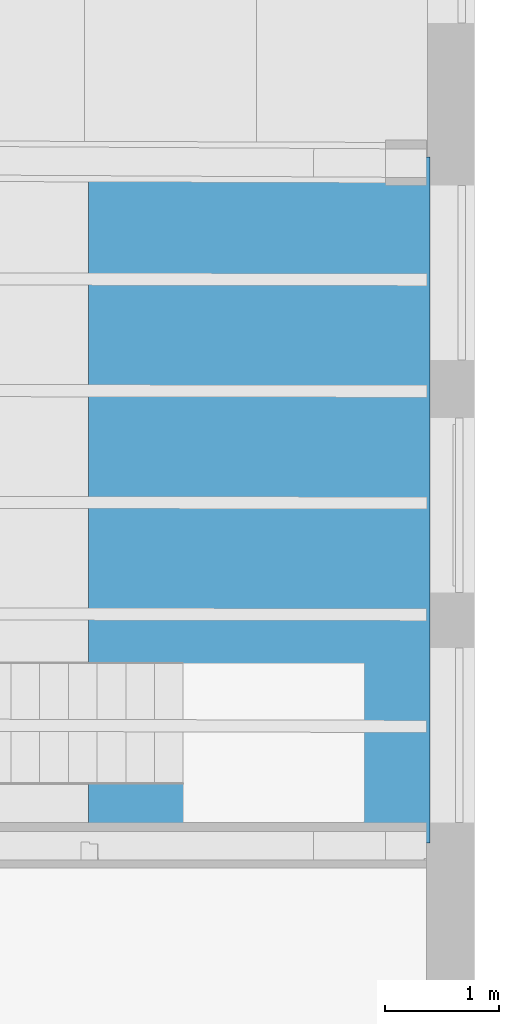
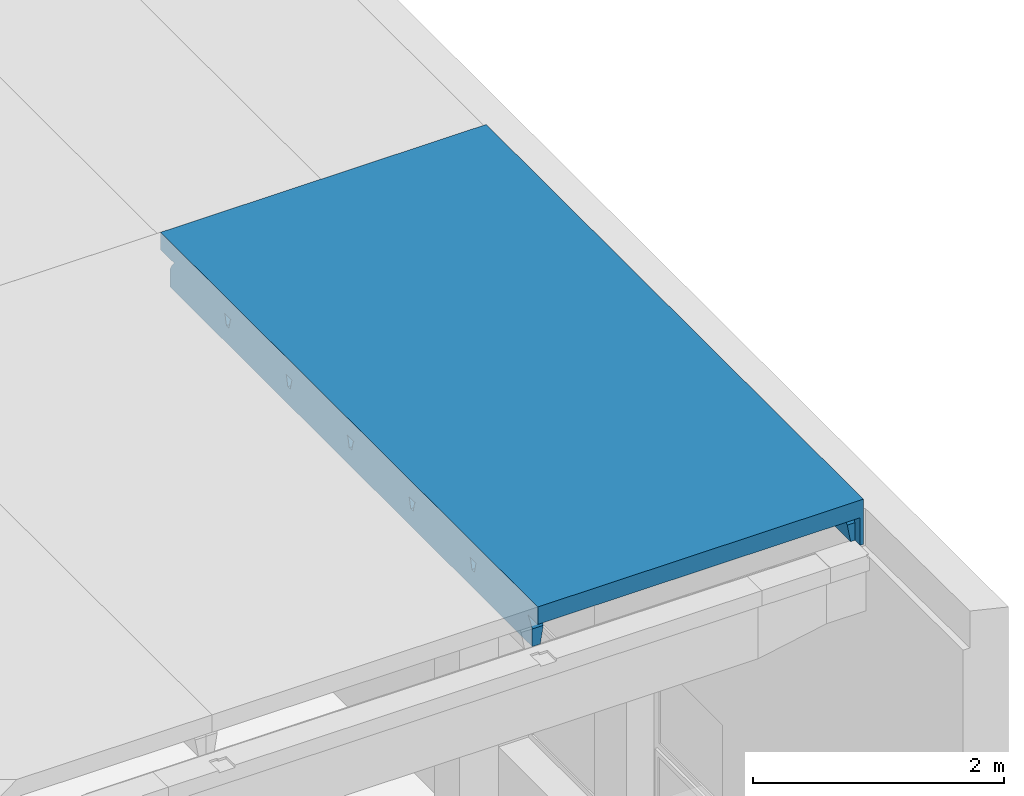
# One storey, part 39 of 301: 1 beam.
"""IFC2X3 building model written with IfcOpenShell, lengths in millimetres."""

from ifc_helpers import new_model, entity, si_unit, converted_unit, derived_unit, money_unit, direction, frame, origin_with_axes, place, context, subcontext, project, spatial, faceted_brep, material, type_object, element, save


model = new_model("IFC2X3")

# Units and contexts
model_context = context("Model", 3, precision=0.01, world=origin_with_axes(), true_north=direction((0.0, 1.0)))
body_context = subcontext(model_context, "Body", "Model", "MODEL_VIEW")
ifc_project = project(units=[si_unit("LENGTHUNIT", "METRE", prefix="MILLI"), si_unit("AREAUNIT", "SQUARE_METRE"), si_unit("VOLUMEUNIT", "CUBIC_METRE"), converted_unit("PLANEANGLEUNIT", "DEGREE", entity("IfcPlaneAngleMeasure", 0.0174532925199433), si_unit("PLANEANGLEUNIT", "RADIAN"), dimensions=[0, 0, 0, 0, 0, 0, 0]), money_unit("EUR"), converted_unit("TIMEUNIT", "Year", entity("IfcTimeMeasure", 31557600.0), si_unit("TIMEUNIT", "SECOND"), dimensions=[0, 0, 1, 0, 0, 0, 0]), si_unit("MASSUNIT", "GRAM", prefix="KILO"), si_unit("THERMODYNAMICTEMPERATUREUNIT", "DEGREE_CELSIUS"), si_unit("LUMINOUSINTENSITYUNIT", "LUMEN"), si_unit("ENERGYUNIT", "JOULE", prefix="MEGA"), derived_unit("THERMALCONDUCTANCEUNIT", [(si_unit("POWERUNIT", "WATT"), 1), (si_unit("LENGTHUNIT", "METRE"), -1), (si_unit("THERMODYNAMICTEMPERATUREUNIT", "KELVIN"), -1)]), derived_unit("SPECIFICHEATCAPACITYUNIT", [(si_unit("ENERGYUNIT", "JOULE"), 1), (si_unit("MASSUNIT", "GRAM", prefix="KILO"), -1), (si_unit("THERMODYNAMICTEMPERATUREUNIT", "KELVIN"), -1)]), derived_unit("MASSDENSITYUNIT", [(si_unit("MASSUNIT", "GRAM", prefix="KILO"), 1), (si_unit("VOLUMEUNIT", "CUBIC_METRE"), -1)])], contexts=[model_context])

# Site, building, storey
site_placement = place(None, frame((0.0, 0.0, 8650.0), z_axis=(0.0, 0.0, 1.0), x_axis=(1.0, 0.0, 0.0)))
site = spatial("IfcSite", under=ifc_project, at=site_placement, Name="43301:001:0844", CompositionType="ELEMENT")
building_placement = place(site_placement, origin_with_axes())
building = spatial("IfcBuilding", under=site, at=building_placement, Name="Kuressaare Ametikooli tuulikute mehaanikute õppekorpus", CompositionType="ELEMENT")
storey_placement = place(building_placement, origin_with_axes())
storey = spatial("IfcBuildingStorey", under=building, at=storey_placement, Name="1.korrus", CompositionType="ELEMENT", Elevation=0.0)

# Beam
ifc_material = material(Name="GENEERILINE - KONSTRUKTRIOON")
beam_type = type_object("IfcBeamType", Name="Precast Double Tee 4 3000 x 440", PredefinedType="NOTDEFINED")
beam_placement = place(storey_placement, frame((101758.7564468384, 44085.15228588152, 7100.0), z_axis=(0.0, 0.0, 1.0), x_axis=(-1.0, 0.0, 0.0)))
element("IfcBeam", 1, at=beam_placement, inside=storey, type_object=beam_type, material=ifc_material, context=body_context, shape_type="Brep", body=[
    faceted_brep([(1500.0, 206.3151401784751, -180.532857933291), (1500.0, 174.6424814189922, -221.5483087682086), (1500.0, 149.0503447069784, -266.6089685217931), (1500.0, 149.0498196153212, -440.0001340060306), (1500.0, 5929.168982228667, -440.0001340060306), (1500.0, 5929.168459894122, -267.5188171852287), (1500.0, 5903.576409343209, -222.4581574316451), (1500.0, 5871.903857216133, -181.4427065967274), (1500.0, 5860.94128330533, -169.9098486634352), (1500.0, 6017.898995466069, -169.9098486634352), (1500.0, 6017.898995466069, 0.0), (1500.0, 0.0, 0.0), (1500.0, 0.0, -168.9999999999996), (1500.0, 217.2777509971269, -168.9999999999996), (1500.0, 1124.227090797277, -169.8331663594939), (1500.0, 1116.028233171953, -175.4075010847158), (1500.0, 1111.453613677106, -184.2033640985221), (1500.0, 1090.71362810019, -271.7806445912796), (1500.0, 1050.713574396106, -271.7806445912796), (1500.0, 1029.972627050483, -184.2031688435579), (1500.0, 1025.39798714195, -175.4074260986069), (1500.0, 1017.199196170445, -169.8331663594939), (1500.0, 2095.445482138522, -175.4075010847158), (1500.0, 2090.870862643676, -184.2033640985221), (1500.0, 2070.130877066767, -271.7806445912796), (1500.0, 2030.130823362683, -271.7806445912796), (1500.0, 2009.389876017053, -184.2031688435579), (1500.0, 2004.815236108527, -175.4074260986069), (1500.0, 1996.616445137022, -169.8331663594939), (1500.0, 2103.644339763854, -169.8331663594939), (1500.0, 3071.659065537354, -184.2033640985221), (1500.0, 3050.919079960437, -271.7806445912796), (1500.0, 3010.919026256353, -271.7806445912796), (1500.0, 2990.178078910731, -184.2031688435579), (1500.0, 2985.603439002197, -175.4074260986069), (1500.0, 2977.404648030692, -169.8331663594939), (1500.0, 3084.432542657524, -169.8331663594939), (1500.0, 3076.2336850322, -175.4075010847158), (1500.0, 4030.671258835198, -271.7806445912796), (1500.0, 3990.671205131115, -271.7806445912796), (1500.0, 3969.930257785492, -184.2031688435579), (1500.0, 3965.355617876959, -175.4074260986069), (1500.0, 3957.156826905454, -169.8331663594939), (1500.0, 4064.184721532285, -169.8331663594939), (1500.0, 4055.985863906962, -175.4075010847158), (1500.0, 4051.411244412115, -184.2033640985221), (1500.0, 4968.472259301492, -271.7806445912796), (1500.0, 4947.731265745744, -184.2031688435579), (1500.0, 4943.156615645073, -175.4074260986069), (1500.0, 4934.957806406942, -169.8331663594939), (1500.0, 5041.985939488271, -169.8331663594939), (1500.0, 5033.787063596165, -175.4075010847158), (1500.0, 5029.21243390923, -184.2033640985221), (1500.0, 5008.472402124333, -271.7806445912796), (1365.910046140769, 206.7696863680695, -180.532857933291), (1371.752641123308, 204.0165735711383, -184.0724353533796), (1384.30381979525, 191.5623218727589, -200.1453415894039), (1390.327470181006, 176.4969041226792, -219.628309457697), (1390.629556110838, 175.013231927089, -221.5483087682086), (1397.719241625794, 149.3970621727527, -266.6089685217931), (1424.999996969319, 149.304059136, -440.0001340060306), (1424.999996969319, 5929.332573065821, -440.0001340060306), (1397.862394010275, 5929.391243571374, -267.5188171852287), (1390.772708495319, 5903.814657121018, -222.4581574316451), (1384.303819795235, 5886.598581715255, -200.1453415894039), (1371.752641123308, 5874.214295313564, -184.0724353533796), (1367.411885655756, 5872.193059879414, -181.4427065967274), (1390.327470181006, 5901.630390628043, -219.628309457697), (1354.310838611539, 5864.67719213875, -173.505793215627), (1334.723493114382, 5861.301786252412, -169.9098486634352), (1334.723493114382, 6017.898995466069, -169.9098486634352), (-1468.815361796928, 6017.898995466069, -440.0001340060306), (-1500.0, 6017.898995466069, -440.0001340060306), (-1500.0, 6017.898995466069, 0.0), (1334.253143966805, 6017.898995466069, -169.8234995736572), (1127.640522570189, 6017.898995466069, -169.9098486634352), (-1468.815361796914, 6017.898995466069, -169.9098486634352), (-1500.0, 0.0, 0.0), (-1500.0, 0.0, -440.0001340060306), (-1468.946474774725, 0.0, -440.0001340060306), (-1468.946474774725, 0.0, -168.9999999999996), (-1468.175825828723, 227.3394519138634, -168.9999999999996), (-1354.45241394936, 223.6866477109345, -172.4372542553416), (-1336.819669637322, 225.0502735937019, -170.9398142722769), (1334.253143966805, 217.0568283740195, -169.8234995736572), (1354.310838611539, 213.4886145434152, -173.505793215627), (-1468.212987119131, 216.3769670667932, -180.532857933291), (-1370.461247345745, 216.0456023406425, -180.532857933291), (-1370.286968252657, 216.2301681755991, -180.338069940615), (1334.253120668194, 1124.498693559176, -169.8331663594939), (1354.310838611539, 1119.064043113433, -173.505793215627), (1357.449888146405, 1116.261824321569, -175.4075010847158), (1371.752641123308, 1111.731861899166, -184.0724353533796), (1371.854882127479, 1111.663599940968, -184.2033640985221), (1384.30381979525, 1107.867833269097, -200.1453415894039), (1390.327470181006, 1103.244020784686, -219.628309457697), (1398.532934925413, 1090.879898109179, -271.7806445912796), (1398.532934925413, 1050.879844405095, -271.7806445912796), (1371.854729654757, 1030.1826135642, -184.2031688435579), (1390.327470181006, 1038.542068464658, -219.628309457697), (1384.30381979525, 1033.937793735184, -200.1453415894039), (1371.752641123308, 1030.114786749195, -184.0724353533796), (1357.44976437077, 1025.631578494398, -175.4074260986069), (1354.310838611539, 1022.839742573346, -173.505793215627), (1334.253143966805, 1017.470798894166, -169.8331663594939), (-1473.661028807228, 1022.072015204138, -169.8331663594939), (-1473.485646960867, 1129.099622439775, -169.8331663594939), (1371.752641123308, 2091.149110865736, -184.0724353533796), (1371.854882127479, 2091.080848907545, -184.2033640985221), (1357.449888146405, 2095.679073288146, -175.4075010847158), (1390.327470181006, 2082.661269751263, -219.628309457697), (1398.532934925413, 2070.297147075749, -271.7806445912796), (1384.30381979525, 2087.285082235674, -200.1453415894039), (1398.532934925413, 2030.297093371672, -271.7806445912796), (1390.327470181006, 2017.959317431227, -219.628309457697), (1384.30381979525, 2013.355042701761, -200.1453415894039), (1371.854729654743, 2009.59986253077, -184.2031688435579), (1357.44976437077, 2005.048827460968, -175.4074260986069), (1371.752641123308, 2009.532035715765, -184.0724353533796), (1334.253124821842, 1996.888047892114, -169.8331663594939), (1354.310838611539, 2002.256991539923, -173.505793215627), (-1472.056101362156, 2001.486634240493, -169.8331663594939), (-1471.880719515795, 2108.514241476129, -169.8331663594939), (1334.253120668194, 2103.915942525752, -169.8331663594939), (1354.310838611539, 2098.481292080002, -173.505793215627), (1398.532934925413, 3051.085349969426, -271.7806445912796), (1371.854882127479, 3071.869051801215, -184.2033640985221), (1384.30381979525, 3068.073285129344, -200.1453415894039), (1390.327470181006, 3063.449472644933, -219.628309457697), (1398.532934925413, 3011.085296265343, -271.7806445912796), (1390.327470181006, 2998.747520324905, -219.628309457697), (1384.30381979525, 2994.143245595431, -200.1453415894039), (1371.854729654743, 2990.388065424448, -184.2031688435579), (1371.752641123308, 2990.320238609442, -184.0724353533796), (1357.44976437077, 2985.837030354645, -175.4074260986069), (1354.310838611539, 2983.045194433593, -173.505793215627), (1334.253125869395, 2977.676250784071, -169.8331663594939), (-1470.448927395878, 2982.272203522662, -169.8331663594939), (-1470.273545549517, 3089.299810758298, -169.8331663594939), (1334.253120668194, 3084.704145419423, -169.8331663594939), (1357.449888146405, 3076.467276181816, -175.4075010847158), (1354.310838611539, 3079.26949497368, -173.505793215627), (1371.752641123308, 3071.937313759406, -184.0724353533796), (1398.532934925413, 4030.837528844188, -271.7806445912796), (1398.532934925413, 3990.837475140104, -271.7806445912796), (1390.327470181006, 3978.499699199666, -219.628309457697), (1384.30381979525, 3973.895424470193, -200.1453415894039), (1371.854729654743, 3970.140244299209, -184.2031688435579), (1371.752641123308, 3970.072417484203, -184.0724353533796), (1357.449764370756, 3965.589209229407, -175.4074260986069), (1354.310838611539, 3962.797373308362, -173.505793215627), (1334.253127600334, 3957.428429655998, -169.8331663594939), (-1468.668069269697, 4069.04935880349, -169.8331663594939), (1334.253120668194, 4064.456324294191, -169.8331663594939), (-1468.843451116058, 3962.021751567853, -169.8331663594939), (1354.310838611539, 4059.021673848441, -173.505793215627), (1357.449888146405, 4056.219455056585, -175.4075010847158), (1371.752641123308, 4051.689492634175, -184.0724353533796), (1371.854882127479, 4051.621230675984, -184.2033640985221), (1384.30381979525, 4047.825464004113, -200.1453415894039), (1390.327470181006, 4043.201651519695, -219.628309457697), (1390.327470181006, 4956.414087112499, -219.628309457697), (1384.303819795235, 4951.81602835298, -200.1453415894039), (1371.854729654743, 4948.073707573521, -184.2031688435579), (1398.532934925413, 4968.743409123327, -271.7806445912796), (1371.752641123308, 4948.00598612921, -184.0724353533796), (1357.44976437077, 4943.537551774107, -175.4074260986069), (1354.310838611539, 4940.748954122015, -173.505793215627), (1334.253131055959, 4935.400730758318, -169.8331663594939), (1334.253113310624, 5042.42886388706, -169.8331663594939), (-1468.898917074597, 4942.891576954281, -169.8331663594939), (-1468.612908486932, 5049.918945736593, -169.8331663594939), (1354.310838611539, 5036.973469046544, -173.505793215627), (1357.449888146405, 5034.167999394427, -175.4075010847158), (1371.752641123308, 5029.623243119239, -184.0724353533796), (1371.854882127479, 5029.554875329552, -184.2033640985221), (1384.303819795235, 5025.746232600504, -200.1453415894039), (1390.327470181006, 5021.116183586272, -219.628309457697), (1398.532934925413, 5008.743551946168, -271.7806445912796), (-1468.994775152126, 5935.644986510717, -440.0001340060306), (-1430.000000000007, 5935.559930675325, -440.0001340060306), (-1430.000000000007, 158.9821098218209, -440.0001340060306), (-1468.407106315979, 159.1123045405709, -440.0001340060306), (-1336.819669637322, 5047.939069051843, -170.9398142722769), (-1336.819669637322, 5868.108021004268, -170.9398142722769), (1127.640522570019, 5861.753477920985, -169.9098486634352), (-1469.143593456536, 5867.41761219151, -169.9098486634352), (-1468.994776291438, 5935.644464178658, -267.5188171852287), (-1469.119681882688, 5878.380133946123, -181.4427065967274), (-1469.050597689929, 5910.052535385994, -222.4581574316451), (-1468.407104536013, 159.1128296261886, -266.6089685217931), (-1468.320351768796, 184.7046722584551, -221.5483087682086), (-1354.45241394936, 1025.706844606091, -172.4372542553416), (-1336.819669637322, 1023.475470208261, -170.9398142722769), (-1390.259892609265, 184.4400582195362, -221.5483087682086), (-1388.184278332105, 193.2437203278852, -210.1386333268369), (-1382.086528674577, 206.0513963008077, -193.5261847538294), (-1370.286968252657, 1032.665824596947, -180.338069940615), (-1382.086528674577, 1036.903353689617, -193.5261847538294), (-1373.745117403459, 1034.681717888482, -184.2031688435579), (-1360.405134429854, 1030.085218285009, -175.4074260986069), (-1473.647593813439, 1030.270784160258, -175.4074260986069), (-1473.606110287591, 1055.586303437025, -271.7806445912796), (-1473.540563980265, 1095.586249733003, -271.7806445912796), (-1473.506578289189, 1116.32617961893, -184.2033640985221), (-1473.499082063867, 1120.900786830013, -175.4075010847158), (-1473.640097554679, 1034.845411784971, -184.2031688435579), (-1354.45241394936, 1125.074416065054, -172.4372542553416), (-1336.819669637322, 1127.247990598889, -170.9398142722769), (-1360.405284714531, 1120.715464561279, -175.4075010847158), (-1472.042666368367, 2009.685403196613, -175.4074260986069), (-1336.819669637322, 2002.892719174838, -170.9398142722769), (-1354.45241394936, 2005.124093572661, -172.4372542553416), (-1360.40513442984, 2009.502467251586, -175.4074260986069), (-1472.035170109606, 2014.260030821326, -184.2031688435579), (-1472.001182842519, 2035.00092247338, -271.7806445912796), (-1471.935636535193, 2075.000868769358, -271.7806445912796), (-1471.901650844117, 2095.740798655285, -184.2033640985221), (-1471.894154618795, 2100.315405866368, -175.4075010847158), (-1336.819669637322, 2106.665239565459, -170.9398142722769), (-1360.405284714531, 2100.132713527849, -175.4075010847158), (-1354.45241394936, 2104.491665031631, -172.4372542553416), (-1470.394008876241, 3015.786491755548, -271.7806445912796), (-1470.328462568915, 3055.786438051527, -271.7806445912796), (-1470.294476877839, 3076.526367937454, -184.2033640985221), (-1470.286980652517, 3081.100975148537, -175.4075010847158), (-1470.435492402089, 2990.470972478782, -175.4074260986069), (-1470.427996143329, 2995.045600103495, -184.2031688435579), (-1360.405284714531, 3080.920916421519, -175.4075010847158), (-1354.45241394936, 3085.279867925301, -172.4372542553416), (-1336.819669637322, 3087.453442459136, -170.9398142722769), (-1336.819669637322, 2983.680922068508, -170.9398142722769), (-1354.45241394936, 2985.912296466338, -172.4372542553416), (-1360.40513442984, 2990.290670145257, -175.4074260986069), (-1468.681504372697, 4060.850523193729, -175.4075010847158), (-1360.405284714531, 4060.673095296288, -175.4075010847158), (-1354.45241394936, 4065.03204680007, -172.4372542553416), (-1336.819669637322, 4067.205621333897, -170.9398142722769), (-1336.819669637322, 3963.43310094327, -170.9398142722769), (-1354.45241394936, 3965.6644753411, -172.4372542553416), (-1360.40513442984, 3970.042849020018, -175.4074260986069), (-1468.830016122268, 3970.220520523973, -175.4074260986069), (-1468.722986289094, 4035.535986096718, -271.7806445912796), (-1468.689000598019, 4056.275915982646, -184.2033640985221), (-1468.822519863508, 3974.795148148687, -184.2031688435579), (-1468.78853259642, 3995.53603980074, -271.7806445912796), (-1336.819669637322, 4944.166317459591, -170.9398142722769), (-1354.45241394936, 4946.415922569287, -172.4372542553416), (-1360.40513442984, 4950.800458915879, -175.4074260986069), (-1468.877007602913, 4951.090327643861, -175.4074260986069), (-1468.647042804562, 5037.145531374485, -184.2033640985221), (-1468.634818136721, 5041.720128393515, -175.4075010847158), (-1468.86478288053, 4955.664945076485, -184.2031688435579), (-1468.809357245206, 4976.40579051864, -271.7806445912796), (-1468.702465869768, 5016.40564769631, -271.7806445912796), (-1360.405284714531, 5041.430907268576, -175.4075010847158), (-1354.45241394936, 5045.783715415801, -172.4372542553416), (-1398.622710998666, 5935.490967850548, -267.5188171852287), (-1388.184278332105, 5900.362885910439, -210.1386333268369), (-1388.184278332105, 5030.788526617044, -210.1386333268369), (-1399.398009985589, 5016.220445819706, -271.7806445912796), (-1399.398009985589, 4976.220302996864, -271.7806445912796), (-1388.184278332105, 4961.591645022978, -210.1386333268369), (-1388.184278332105, 4050.002025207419, -210.1386333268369), (-1399.398009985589, 4035.422386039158, -271.7806445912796), (-1399.398009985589, 3995.422332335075, -271.7806445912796), (-1388.184278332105, 3980.805297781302, -210.1386333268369), (-1388.184278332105, 3070.249846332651, -210.1386333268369), (-1399.398009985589, 3055.67020716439, -271.7806445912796), (-1399.398009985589, 3015.670153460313, -271.7806445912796), (-1388.184278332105, 3001.053118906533, -210.1386333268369), (-1388.184278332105, 2089.46164343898, -210.1386333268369), (-1399.398009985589, 2074.882004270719, -271.7806445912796), (-1399.398009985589, 2034.881950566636, -271.7806445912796), (-1388.184278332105, 2020.264916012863, -210.1386333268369), (-1388.184278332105, 1110.044394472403, -210.1386333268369), (-1399.398009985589, 1095.464755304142, -271.7806445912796), (-1399.398009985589, 1055.464701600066, -271.7806445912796), (-1388.184278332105, 1040.847667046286, -210.1386333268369), (-1398.457194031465, 158.8757092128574, -266.6089685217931), (-1390.425409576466, 5909.881037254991, -222.4581574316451), (-1354.45241394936, 5869.569875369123, -172.4372542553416), (-1370.286968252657, 5877.114545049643, -180.338069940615), (-1371.275299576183, 5878.166714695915, -181.4427065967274), (-1382.086528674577, 5887.521282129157, -193.5261847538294), (-1382.086528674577, 1113.968549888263, -193.5261847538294), (-1373.745292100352, 1116.162704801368, -184.2033640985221), (-1370.286968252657, 1118.167329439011, -180.338069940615), (-1370.286968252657, 2012.083073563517, -180.338069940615), (-1373.745117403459, 2014.098966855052, -184.2031688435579), (-1382.086528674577, 2016.320602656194, -193.5261847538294), (-1382.086528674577, 2093.38579885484, -193.5261847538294), (-1373.745292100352, 2095.579953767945, -184.2033640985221), (-1370.286968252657, 2097.584578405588, -180.338069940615), (-1370.286968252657, 2992.871276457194, -180.338069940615), (-1373.745292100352, 3076.368156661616, -184.2033640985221), (-1382.086528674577, 3074.17400174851, -193.5261847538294), (-1370.286968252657, 3078.372781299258, -180.338069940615), (-1373.745117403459, 2994.887169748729, -184.2031688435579), (-1382.086528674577, 2997.108805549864, -193.5261847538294), (-1370.286968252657, 3972.623455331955, -180.338069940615), (-1373.745292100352, 4056.120335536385, -184.2033640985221), (-1370.286968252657, 4058.12496017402, -180.338069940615), (-1370.286968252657, 4953.391285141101, -180.338069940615), (-1373.745117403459, 3974.639348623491, -184.2031688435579), (-1382.086528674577, 4053.926180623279, -193.5261847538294), (-1382.086528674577, 3976.860984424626, -193.5261847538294), (-1373.745117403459, 4955.41075737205, -184.2031688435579), (-1373.745292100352, 5036.891926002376, -184.2033640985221), (-1370.286968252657, 5038.892980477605, -180.338069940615), (-1382.086528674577, 4957.641020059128, -193.5261847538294), (-1382.086528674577, 5034.706387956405, -193.5261847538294)], [[[0, 1, 2, 3, 4, 5, 6, 7, 8, 9, 10, 11, 12, 13], [14, 15, 16, 17, 18, 19, 20, 21], [22, 23, 24, 25, 26, 27, 28, 29], [30, 31, 32, 33, 34, 35, 36, 37], [38, 39, 40, 41, 42, 43, 44, 45], [46, 47, 48, 49, 50, 51, 52, 53]], [[1, 0, 54, 55, 56, 57, 58]], [[1, 58, 59, 2]], [[2, 59, 60, 3]], [[61, 4, 3, 60]], [[61, 62, 5, 4]], [[62, 63, 6, 5]], [[64, 65, 66, 7, 6, 63, 67]], [[8, 7, 66, 68, 69]], [[69, 70, 9, 8]], [[71, 72, 73, 10, 9, 70, 74, 75, 76]], [[77, 11, 10, 73]], [[77, 78, 79, 80, 12, 11]], [[13, 12, 80, 81]], [[82, 83, 84, 85, 54, 0, 13, 81, 86, 87, 88]], [[89, 90, 91, 15, 14]], [[91, 92, 93, 16, 15]], [[94, 95, 96, 17, 16, 93]], [[17, 96, 97, 18]], [[98, 19, 18, 97, 99, 100]], [[101, 102, 20, 19, 98]], [[103, 104, 21, 20, 102]], [[21, 104, 105, 106, 89, 14]], [[107, 108, 23, 22, 109]], [[110, 111, 24, 23, 108, 112]], [[111, 113, 25, 24]], [[26, 25, 113, 114, 115, 116]], [[117, 27, 26, 116, 118]], [[119, 28, 27, 117, 120]], [[119, 121, 122, 123, 29, 28]], [[124, 109, 22, 29, 123]], [[125, 31, 30, 126, 127, 128]], [[129, 32, 31, 125]], [[32, 129, 130, 131, 132, 33]], [[34, 33, 132, 133, 134]], [[35, 34, 134, 135, 136]], [[137, 138, 139, 36, 35, 136]], [[140, 37, 36, 139, 141]], [[126, 30, 37, 140, 142]], [[39, 38, 143, 144]], [[144, 145, 146, 147, 40, 39]], [[40, 147, 148, 149, 41]], [[41, 149, 150, 151, 42]], [[152, 153, 43, 42, 151, 154]], [[44, 43, 153, 155, 156]], [[45, 44, 156, 157, 158]], [[38, 45, 158, 159, 160, 143]], [[161, 162, 163, 47, 46, 164]], [[163, 165, 166, 48, 47]], [[166, 167, 168, 49, 48]], [[169, 50, 49, 168, 170, 171]], [[50, 169, 172, 173, 51]], [[51, 173, 174, 175, 52]], [[52, 175, 176, 177, 178, 53]], [[53, 178, 164, 46]], [[101, 55, 54, 85, 103, 102]], [[98, 100, 56, 55, 101]], [[56, 100, 99, 57]], [[164, 178, 177, 67, 63, 62, 61, 60, 59, 58, 57, 99, 97, 96, 95, 114, 113, 111, 110, 130, 129, 125, 128, 145, 144, 143, 160, 161]], [[176, 175, 174, 65, 64]], [[174, 173, 172, 68, 66, 65]], [[67, 177, 176, 64]], [[68, 172, 169, 74, 70, 69]], [[179, 180, 181, 182, 79, 78, 72, 71]], [[78, 77, 73, 72]], [[74, 169, 183, 184, 185, 75]], [[76, 75, 185, 186]], [[187, 179, 71, 76, 186, 188, 189]], [[86, 81, 80, 79, 182, 190, 191]], [[82, 192, 193, 83]], [[83, 193, 104, 84]], [[84, 104, 103, 85]], [[87, 86, 191, 194, 195, 196]], [[197, 88, 87, 196, 198, 199]], [[200, 192, 82, 88, 197]], [[119, 120, 90, 89]], [[92, 91, 90, 120, 117, 118]], [[94, 93, 92, 118, 116, 115]], [[115, 114, 95, 94]], [[200, 201, 105, 104, 193, 192]], [[202, 203, 204, 205, 106, 105, 201, 206]], [[207, 208, 89, 106, 205, 209]], [[108, 107, 133, 132, 131, 112]], [[109, 124, 135, 134, 133, 107]], [[130, 110, 112, 131]], [[210, 121, 119, 211, 212, 213]], [[214, 215, 216, 217, 218, 122, 121, 210]], [[219, 123, 122, 218, 220, 221]], [[135, 124, 123, 136]], [[142, 148, 147, 146, 127, 126]], [[128, 127, 146, 145]], [[222, 223, 224, 225, 138, 137, 226, 227]], [[139, 138, 225, 228, 229, 230]], [[137, 136, 231, 232, 233, 226]], [[141, 139, 151, 150]], [[141, 150, 149, 148, 142, 140]], [[152, 234, 235, 236, 237, 153]], [[151, 238, 239, 240, 241, 154]], [[242, 243, 234, 152, 154, 241, 244, 245]], [[153, 168, 167, 155]], [[167, 166, 165, 157, 156, 155]], [[165, 163, 162, 159, 158, 157]], [[159, 162, 161, 160]], [[246, 247, 248, 249, 170, 168]], [[250, 251, 171, 170, 249, 252, 253, 254]], [[251, 255, 256, 183, 169, 171]], [[180, 179, 187, 257]], [[258, 259, 260, 261, 262, 263, 264, 265, 266, 267, 268, 269, 270, 271, 272, 273, 274, 275, 276, 277, 278, 195, 194, 279, 181, 180, 257, 280]], [[190, 182, 181, 279]], [[184, 183, 256, 281]], [[281, 282, 283, 188, 186, 185, 184]], [[283, 284, 258, 280, 189, 188]], [[280, 257, 187, 189]], [[190, 279, 194, 191]], [[195, 278, 198, 196]], [[277, 202, 206, 199, 198, 278]], [[197, 199, 206, 201, 200]], [[211, 119, 89, 208]], [[202, 277, 276, 203]], [[275, 285, 286, 204, 203, 276]], [[286, 287, 209, 205, 204]], [[212, 211, 208, 207]], [[207, 209, 287, 288, 213, 212]], [[289, 214, 210, 213, 288]], [[215, 214, 289, 290, 274, 273]], [[273, 272, 216, 215]], [[291, 292, 217, 216, 272, 271]], [[293, 220, 218, 217, 292]], [[136, 123, 219, 231]], [[220, 293, 294, 233, 232, 221]], [[231, 219, 221, 232]], [[268, 223, 222, 269]], [[295, 224, 223, 268, 267, 296]], [[228, 225, 224, 295, 297]], [[227, 226, 233, 294, 298]], [[227, 298, 299, 270, 269, 222]], [[297, 300, 240, 239, 229, 228]], [[230, 229, 239, 238]], [[139, 230, 238, 151]], [[234, 243, 301, 302, 235]], [[303, 248, 247, 236, 235, 302]], [[236, 247, 246, 237]], [[237, 246, 168, 153]], [[241, 240, 300, 304, 244]], [[243, 242, 264, 263, 305, 301]], [[304, 306, 266, 265, 245, 244]], [[242, 245, 265, 264]], [[248, 303, 307, 252, 249]], [[250, 308, 309, 255, 251]], [[310, 262, 261, 253, 252, 307]], [[253, 261, 260, 254]], [[254, 260, 259, 311, 308, 250]], [[256, 255, 309, 282, 281]], [[284, 311, 259, 258]], [[263, 262, 310, 305]], [[296, 267, 266, 306]], [[299, 291, 271, 270]], [[274, 290, 285, 275]], [[309, 308, 311, 284, 283, 282]], [[287, 286, 285, 290, 289, 288]], [[292, 291, 299, 298, 294, 293]], [[296, 306, 304, 300, 297, 295]], [[310, 307, 303, 302, 301, 305]]]),
])

save(model, "model.ifc")
